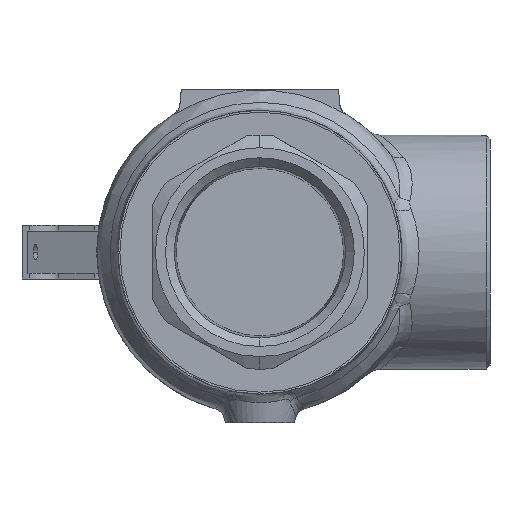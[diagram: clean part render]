
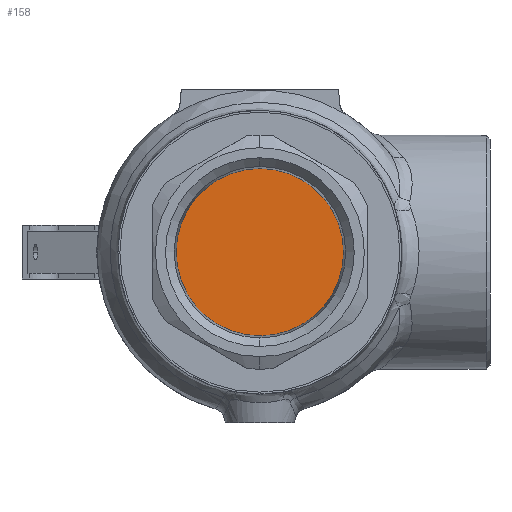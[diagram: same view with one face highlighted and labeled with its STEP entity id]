
A CAD part, front view. The second image highlights one B-rep face of the part: STEP entity #158.
In plain terms, the highlighted planar face has unit normal (0, -1, 0).
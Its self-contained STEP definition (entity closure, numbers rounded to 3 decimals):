
#158=ADVANCED_FACE('',(#727),#726,.F.);
#726=PLANE('',#1992);
#727=FACE_OUTER_BOUND('',#1993,.T.);
#1989=CARTESIAN_POINT('',(-45.373,-45.,-50.209));
#1990=DIRECTION('',(0.,1.,0.));
#1991=DIRECTION('',(0.,0.,1.));
#1992=AXIS2_PLACEMENT_3D('',#1989,#1990,#1991);
#1993=EDGE_LOOP('',(#3995,#3996));
#3995=ORIENTED_EDGE('',*,*,#4630,.F.);
#3996=ORIENTED_EDGE('',*,*,#4631,.F.);
#4630=EDGE_CURVE('',#5792,#5793,#5794,.T.);
#4631=EDGE_CURVE('',#5793,#5792,#5800,.T.);
#5792=VERTEX_POINT('',#7937);
#5793=VERTEX_POINT('',#7938);
#5794=CIRCLE('',#7942,21.83);
#5800=CIRCLE('',#7946,21.83);
#7937=CARTESIAN_POINT('',(0.,-45.,-21.83));
#7938=CARTESIAN_POINT('',(0.,-45.,21.83));
#7939=CARTESIAN_POINT('',(0.,-45.,0.));
#7940=DIRECTION('',(0.,1.,0.));
#7941=DIRECTION('',(0.,0.,1.));
#7942=AXIS2_PLACEMENT_3D('',#7939,#7940,#7941);
#7943=CARTESIAN_POINT('',(0.,-45.,0.));
#7944=DIRECTION('',(0.,1.,0.));
#7945=DIRECTION('',(0.,0.,1.));
#7946=AXIS2_PLACEMENT_3D('',#7943,#7944,#7945);
